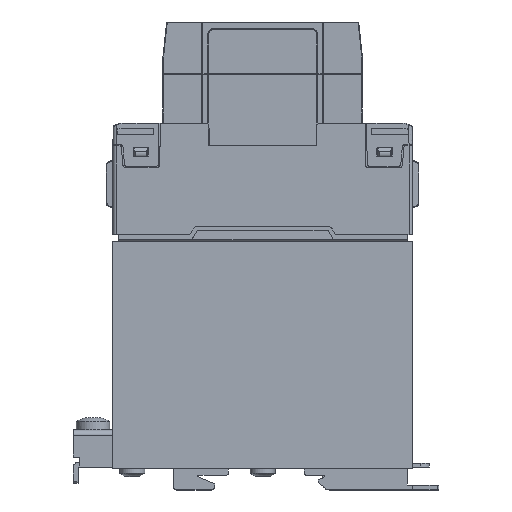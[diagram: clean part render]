
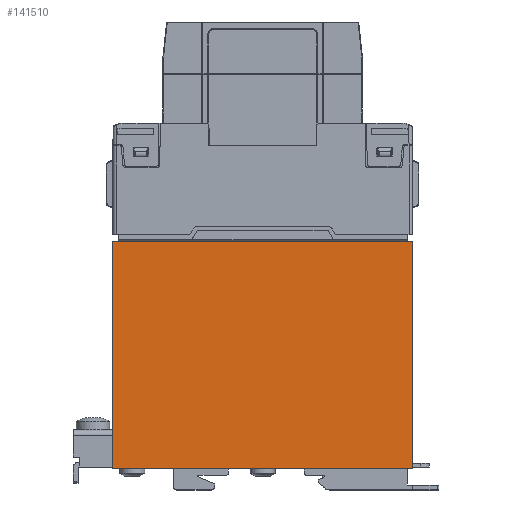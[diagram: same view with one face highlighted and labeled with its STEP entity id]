
A CAD part, left-side view. The second image highlights one B-rep face of the part: STEP entity #141510.
In plain terms, the highlighted planar face has unit normal (-1, 0, 0).
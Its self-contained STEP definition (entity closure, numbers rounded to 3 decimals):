
#137624=CARTESIAN_POINT('',(-35.65,-45.,70.2));
#137625=VERTEX_POINT('',#137624);
#137632=CARTESIAN_POINT('',(-35.65,-45.,2.1));
#137633=VERTEX_POINT('',#137632);
#137634=CARTESIAN_POINT('',(-35.65,-45.,70.2));
#137635=DIRECTION('',(0.0,0.0,-1.0));
#137636=VECTOR('',#137635,68.1);
#137637=LINE('',#137634,#137636);
#137638=EDGE_CURVE('',#137625,#137633,#137637,.T.);
#141480=CARTESIAN_POINT('',(-35.65,-45.,70.2));
#141481=DIRECTION('',(-1.0,0.0,0.0));
#141482=DIRECTION('',(0.0,0.0,1.0));
#141483=AXIS2_PLACEMENT_3D('',#141480,#141481,#141482);
#141484=PLANE('',#141483);
#141485=ORIENTED_EDGE('',*,*,#137638,.F.);
#141486=CARTESIAN_POINT('',(-35.65,45.,70.2));
#141487=VERTEX_POINT('',#141486);
#141488=CARTESIAN_POINT('',(-35.65,-45.,70.2));
#141489=DIRECTION('',(0.0,1.0,0.0));
#141490=VECTOR('',#141489,90.);
#141491=LINE('',#141488,#141490);
#141492=EDGE_CURVE('',#137625,#141487,#141491,.T.);
#141493=ORIENTED_EDGE('',*,*,#141492,.T.);
#141494=CARTESIAN_POINT('',(-35.65,45.,2.1));
#141495=VERTEX_POINT('',#141494);
#141496=CARTESIAN_POINT('',(-35.65,45.,70.2));
#141497=DIRECTION('',(0.0,0.0,-1.0));
#141498=VECTOR('',#141497,68.1);
#141499=LINE('',#141496,#141498);
#141500=EDGE_CURVE('',#141487,#141495,#141499,.T.);
#141501=ORIENTED_EDGE('',*,*,#141500,.T.);
#141502=CARTESIAN_POINT('',(-35.65,-45.,2.1));
#141503=DIRECTION('',(0.0,1.0,0.0));
#141504=VECTOR('',#141503,90.);
#141505=LINE('',#141502,#141504);
#141506=EDGE_CURVE('',#141495,#137633,#141505,.F.);
#141507=ORIENTED_EDGE('',*,*,#141506,.T.);
#141508=EDGE_LOOP('',(#141485,#141493,#141501,#141507));
#141509=FACE_OUTER_BOUND('',#141508,.T.);
#141510=ADVANCED_FACE('',(#141509),#141484,.T.);
